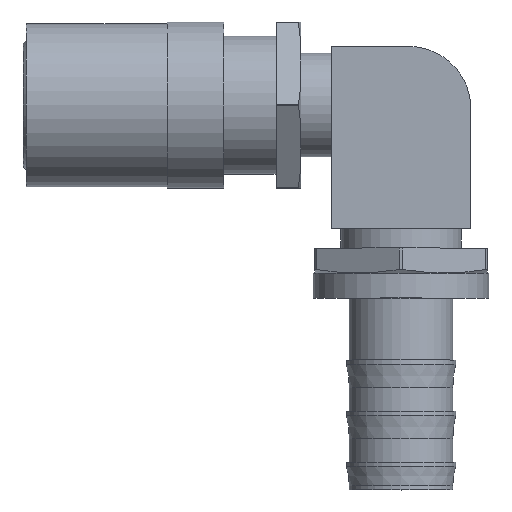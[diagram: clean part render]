
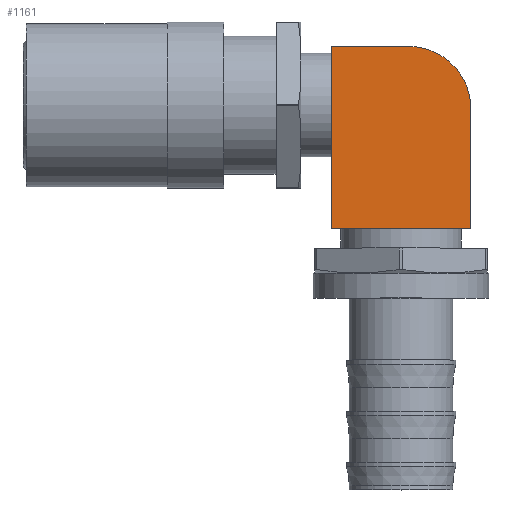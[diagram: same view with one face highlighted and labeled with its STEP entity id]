
A CAD part, top view. The second image highlights one B-rep face of the part: STEP entity #1161.
In plain terms, the highlighted planar face has unit normal (0, 0, 1).
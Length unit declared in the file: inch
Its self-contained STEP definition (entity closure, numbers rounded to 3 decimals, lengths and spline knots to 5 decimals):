
#31=PLANE('',#1294);
#136=LINE('',#2045,#192);
#140=LINE('',#2053,#196);
#143=LINE('',#2061,#199);
#146=LINE('',#2067,#202);
#192=VECTOR('',#1534,39.37008);
#196=VECTOR('',#1540,39.37008);
#199=VECTOR('',#1547,39.37008);
#202=VECTOR('',#1552,39.37008);
#355=ORIENTED_EDGE('',*,*,#618,.T.);
#356=ORIENTED_EDGE('',*,*,#622,.T.);
#357=ORIENTED_EDGE('',*,*,#626,.T.);
#358=ORIENTED_EDGE('',*,*,#629,.T.);
#359=ORIENTED_EDGE('',*,*,#631,.T.);
#618=EDGE_CURVE('',#755,#754,#136,.T.);
#622=EDGE_CURVE('',#754,#757,#140,.T.);
#626=EDGE_CURVE('',#757,#760,#143,.T.);
#629=EDGE_CURVE('',#760,#762,#146,.T.);
#631=EDGE_CURVE('',#762,#755,#828,.T.);
#754=VERTEX_POINT('',#2044);
#755=VERTEX_POINT('',#2046);
#757=VERTEX_POINT('',#2052);
#760=VERTEX_POINT('',#2060);
#762=VERTEX_POINT('',#2066);
#828=CIRCLE('',#1293,0.45);
#906=EDGE_LOOP('',(#355,#356,#357,#358,#359));
#1028=FACE_BOUND('',#906,.T.);
#1161=ADVANCED_FACE('',(#1028),#31,.T.);
#1293=AXIS2_PLACEMENT_3D('',#2070,#1557,#1558);
#1294=AXIS2_PLACEMENT_3D('',#2071,#1559,#1560);
#1534=DIRECTION('',(-1.,0.,0.));
#1540=DIRECTION('',(0.,-1.,0.));
#1547=DIRECTION('',(1.,0.,0.));
#1552=DIRECTION('',(0.,1.,0.));
#1557=DIRECTION('',(0.,0.,1.));
#1558=DIRECTION('',(1.,0.,0.));
#1559=DIRECTION('',(0.,0.,1.));
#1560=DIRECTION('',(1.,0.,0.));
#2044=CARTESIAN_POINT('',(2.206,0.425,0.5));
#2045=CARTESIAN_POINT('',(2.766,0.425,0.5));
#2046=CARTESIAN_POINT('',(2.766,0.425,0.5));
#2052=CARTESIAN_POINT('',(2.206,-0.895,0.5));
#2053=CARTESIAN_POINT('',(2.206,0.425,0.5));
#2060=CARTESIAN_POINT('',(3.216,-0.895,0.5));
#2061=CARTESIAN_POINT('',(2.206,-0.895,0.5));
#2066=CARTESIAN_POINT('',(3.216,-0.025,0.5));
#2067=CARTESIAN_POINT('',(3.216,-0.895,0.5));
#2070=CARTESIAN_POINT('',(2.766,-0.025,0.5));
#2071=CARTESIAN_POINT('',(2.766,-0.025,0.5));
